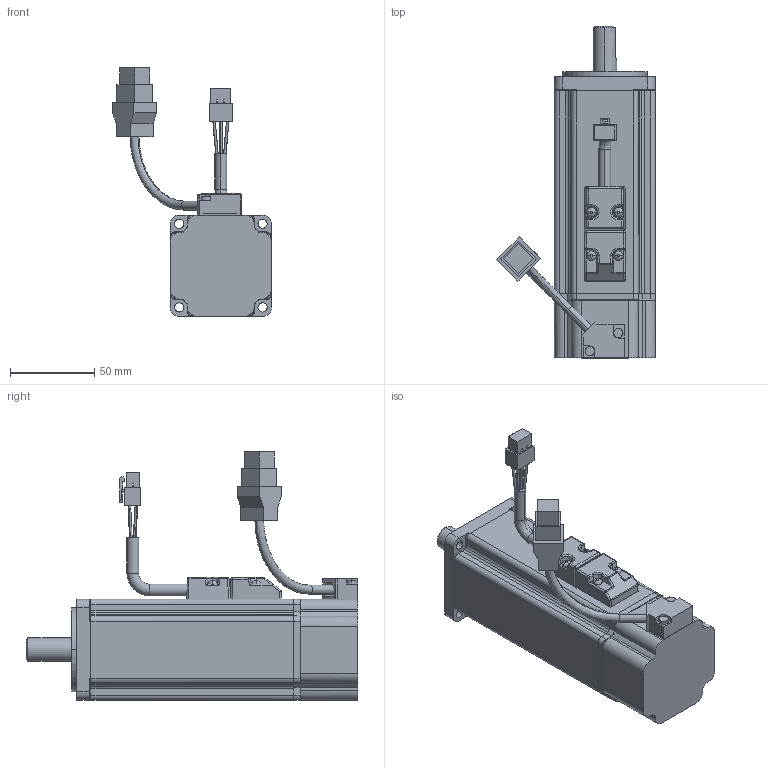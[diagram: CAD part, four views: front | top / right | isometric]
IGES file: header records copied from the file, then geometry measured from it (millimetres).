
Start section:  PTC IGES file: ECMA-CX0604SS.igs
Global section: file name: ECMA-CX0604SS.igs; native system: Pro/ENGINEER by Parametric Technology Corporation; preprocessor: 2010180; author: MIO.CHEN; organization: Unknown; date: 20160810.150458; units: millimetre
Bounding box: 94.24 x 196.8 x 147.37 mm (x, y, z)
Volume: 575609.7 mm3; surface area: 60283.1 mm2
Topology: 1 solids, 5 shells, 539 faces, 1344 edges, 833 vertices
Faces by surface type: bspline 274, revolution 265
